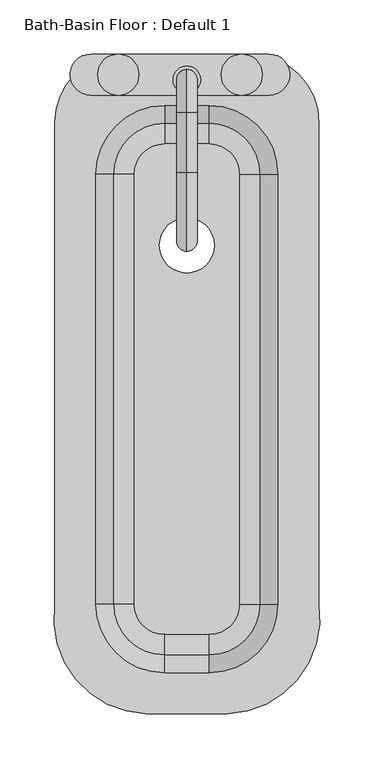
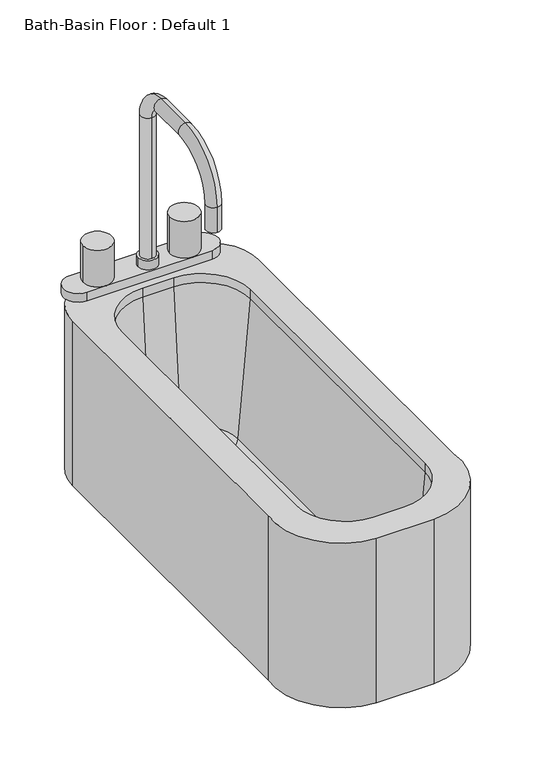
"""IFC4 building model written with IfcOpenShell, lengths in millimetres: flow terminal geometry, Bath-Basin Floor : Default 1."""

from ifc_helpers import new_model, si_unit, point, frame, origin, place, context, project, spatial, polyline, circle_curve, ellipse_curve, trimmed, source, transform, mapped, element, save
from ifc_brep_helpers import plane_surface, cylinder_surface, revolved_surface, advanced_brep


def bath_basin_floor_default_1_f7363a9e(model_context):
    return source(origin(), model_context, "Body", "AdvancedBrep", [
        advanced_brep(
        [(-22.1981923, -430.6108935, 698.5), (-106.5482593, -329.0108928, 698.5), (-106.5482593, 116.6454011, 698.5), (-43.0482593, 180.1454011, 698.5), (74.4267406, 180.1454011, 698.5), (137.9267406, 116.6454011, 698.5), (137.9267406, -329.0108935, 698.5), (53.5766735, -430.6108935, 698.5), (-9.7107594, 3.175, 698.5), (41.0892406, 3.175, 698.5), (64.3151588, 69.0204011, 708.025), (36.3267406, 97.0088193, 708.025), (-4.9482594, 97.0088193, 708.025), (-32.9366776, 69.0204011, 708.025), (-32.9366776, -329.0108935, 708.025), (-4.9482594, -356.9993117, 708.025), (36.3267406, -356.9993117, 708.025), (64.3151588, -329.0108935, 708.025), (-9.7107594, 3.175, 708.025), (41.0892406, 3.175, 708.025), (83.2926678, 69.0204011, 725.4146831), (36.3267406, 115.9863283, 725.4146831), (99.8267406, 69.0204011, 914.4), (36.3267406, 132.5204011, 914.4), (83.2926678, -329.0108935, 725.4146831), (99.8267406, -329.0108935, 914.4), (36.3267406, -375.9768207, 725.4146831), (36.3267406, -392.5108935, 914.4), (-4.9482594, -375.9768207, 725.4146831), (-4.9482594, -392.5108935, 914.4), (-51.9141866, -329.0108935, 725.4146831), (-68.4482594, -329.0108935, 914.4), (-51.9141866, 69.0204011, 725.4146831), (-68.4482594, 69.0204011, 914.4), (-4.9482594, 115.9863283, 725.4146831), (-4.9482594, 132.5204011, 914.4), (-22.1981923, -430.6108935, 927.1), (53.5766735, -430.6108935, 927.1), (137.9267406, -329.0108935, 927.1), (137.9267406, 116.6454011, 927.1), (74.4267406, 180.1454011, 927.1), (-43.0482593, 180.1454011, 927.1), (-106.5482593, 116.6454011, 927.1), (-106.5482593, -329.0108928, 927.1), (36.3267406, 132.5204011, 927.1), (99.8267406, 69.0204011, 927.1), (99.8267406, -329.0108935, 927.1), (36.3267406, -392.5108935, 927.1), (-4.9482594, -392.5108935, 927.1), (-68.4482594, -329.0108935, 927.1), (-68.4482594, 69.0204011, 927.1), (-4.9482594, 132.5204011, 927.1)],
        [
            (0, 1, circle_curve(frame((-18.3909746, -341.6356378, 698.5), z_axis=(0.0, 0.0, -1.0), x_axis=(1.0, 0.0, 0.0)), 89.0566732)),
            (1, 2),
            (2, 3, circle_curve(frame((-43.0482593, 116.6454011, 698.5), z_axis=(0.0, 0.0, -1.0), x_axis=(1.0, 0.0, 0.0)), 63.5)),
            (3, 4),
            (4, 5, circle_curve(frame((74.4267406, 116.6454011, 698.5), z_axis=(0.0, 0.0, -1.0), x_axis=(1.0, 0.0, 0.0)), 63.5)),
            (5, 6),
            (6, 7, circle_curve(frame((49.7694557, -341.6356378, 698.5), z_axis=(0.0, 0.0, -1.0), x_axis=(1.0, 0.0, 0.0)), 89.0566732)),
            (7, 0),
            (8, 9, circle_curve(frame((15.6892406, 3.175, 698.5), z_axis=(0.0, 0.0, 1.0), x_axis=(1.0, 0.0, 0.0)), 25.4)),
            (9, 8, circle_curve(frame((15.6892406, 3.175, 698.5), z_axis=(0.0, 0.0, 1.0), x_axis=(1.0, 0.0, 0.0)), 25.4)),
            (10, 11, circle_curve(frame((36.3267406, 69.0204011, 708.025), z_axis=(0.0, 0.0, 1.0), x_axis=(0.0, 1.0, 0.0)), 27.9884182)),
            (11, 12),
            (12, 13, circle_curve(frame((-4.9482594, 69.0204011, 708.025), z_axis=(0.0, 0.0, 1.0), x_axis=(-1.0, 0.0, 0.0)), 27.9884182)),
            (13, 14),
            (14, 15, circle_curve(frame((-4.9482594, -329.0108935, 708.025), z_axis=(0.0, 0.0, 1.0), x_axis=(0.0, -1.0, 0.0)), 27.9884182)),
            (15, 16),
            (16, 17, circle_curve(frame((36.3267406, -329.0108935, 708.025), z_axis=(0.0, 0.0, 1.0), x_axis=(1.0, 0.0, 0.0)), 27.9884182)),
            (17, 10),
            (18, 19, circle_curve(frame((15.6892406, 3.175, 708.025), z_axis=(0.0, 0.0, -1.0), x_axis=(1.0, 0.0, 0.0)), 25.4)),
            (19, 18, circle_curve(frame((15.6892406, 3.175, 708.025), z_axis=(0.0, 0.0, -1.0), x_axis=(1.0, 0.0, 0.0)), 25.4)),
            (10, 20, circle_curve(frame((64.3151588, 69.0204011, 727.075), z_axis=(0.0, -1.0, 0.0), x_axis=(1.0, 0.0, 0.0)), 19.05)),
            (20, 21, circle_curve(frame((36.3267406, 69.0204011, 725.4146831), z_axis=(0.0, 0.0, 1.0), x_axis=(0.0, 1.0, 0.0)), 46.9659272)),
            (21, 11, circle_curve(frame((36.3267406, 97.0088193, 727.075), z_axis=(-1.0, 0.0, 0.0), x_axis=(0.0, 1.0, 0.0)), 19.05)),
            (20, 22),
            (22, 23, circle_curve(frame((36.3267406, 69.0204011, 914.4), z_axis=(0.0, 0.0, 1.0), x_axis=(0.0, 1.0, 0.0)), 63.5)),
            (23, 21),
            (17, 24, circle_curve(frame((64.3151588, -329.0108935, 727.075), z_axis=(0.0, -1.0, 0.0), x_axis=(1.0, 0.0, 0.0)), 19.05)),
            (24, 20),
            (24, 25),
            (25, 22),
            (16, 26, circle_curve(frame((36.3267406, -356.9993117, 727.075), z_axis=(-1.0, 0.0, 0.0), x_axis=(0.0, -1.0, 0.0)), 19.05)),
            (26, 24, circle_curve(frame((36.3267406, -329.0108935, 725.4146831), z_axis=(0.0, 0.0, 1.0), x_axis=(1.0, 0.0, 0.0)), 46.9659272)),
            (26, 27),
            (27, 25, circle_curve(frame((36.3267406, -329.0108935, 914.4), z_axis=(0.0, 0.0, 1.0), x_axis=(1.0, 0.0, 0.0)), 63.5)),
            (15, 28, circle_curve(frame((-4.9482594, -356.9993117, 727.075), z_axis=(-1.0, 0.0, 0.0), x_axis=(0.0, -1.0, 0.0)), 19.05)),
            (28, 26),
            (28, 29),
            (29, 27),
            (14, 30, circle_curve(frame((-32.9366776, -329.0108935, 727.075), z_axis=(0.0, 1.0, 0.0), x_axis=(-1.0, 0.0, 0.0)), 19.05)),
            (30, 28, circle_curve(frame((-4.9482594, -329.0108935, 725.4146831), z_axis=(0.0, 0.0, 1.0), x_axis=(0.0, -1.0, 0.0)), 46.9659272)),
            (30, 31),
            (31, 29, circle_curve(frame((-4.9482594, -329.0108935, 914.4), z_axis=(0.0, 0.0, 1.0), x_axis=(0.0, -1.0, 0.0)), 63.5)),
            (13, 32, circle_curve(frame((-32.9366776, 69.0204011, 727.075), z_axis=(0.0, 1.0, 0.0), x_axis=(-1.0, 0.0, 0.0)), 19.05)),
            (32, 30),
            (32, 33),
            (33, 31),
            (12, 34, circle_curve(frame((-4.9482594, 97.0088193, 727.075), z_axis=(1.0, 0.0, 0.0), x_axis=(0.0, 1.0, 0.0)), 19.05)),
            (34, 32, circle_curve(frame((-4.9482594, 69.0204011, 725.4146831), z_axis=(0.0, 0.0, 1.0), x_axis=(-1.0, 0.0, 0.0)), 46.9659272)),
            (34, 35),
            (35, 33, circle_curve(frame((-4.9482594, 69.0204011, 914.4), z_axis=(0.0, 0.0, 1.0), x_axis=(-1.0, 0.0, 0.0)), 63.5)),
            (21, 34),
            (23, 35),
            (18, 8),
            (9, 19),
            (36, 37),
            (37, 38, circle_curve(frame((49.7694557, -341.6356378, 927.1), z_axis=(0.0, 0.0, 1.0), x_axis=(1.0, 0.0, 0.0)), 89.0566732)),
            (38, 39),
            (39, 40, circle_curve(frame((74.4267406, 116.6454011, 927.1), z_axis=(0.0, 0.0, 1.0), x_axis=(1.0, 0.0, 0.0)), 63.5)),
            (40, 41),
            (41, 42, circle_curve(frame((-43.0482593, 116.6454011, 927.1), z_axis=(0.0, 0.0, 1.0), x_axis=(1.0, 0.0, 0.0)), 63.5)),
            (42, 43),
            (43, 36, circle_curve(frame((-18.3909746, -341.6356378, 927.1), z_axis=(0.0, 0.0, 1.0), x_axis=(1.0, 0.0, 0.0)), 89.0566732)),
            (44, 45, circle_curve(frame((36.3267406, 69.0204011, 927.1), z_axis=(0.0, 0.0, -1.0), x_axis=(1.0, 0.0, 0.0)), 63.5)),
            (45, 46),
            (46, 47, circle_curve(frame((36.3267406, -329.0108935, 927.1), z_axis=(0.0, 0.0, -1.0), x_axis=(1.0, 0.0, 0.0)), 63.5)),
            (47, 48),
            (48, 49, circle_curve(frame((-4.9482594, -329.0108935, 927.1), z_axis=(0.0, 0.0, -1.0), x_axis=(1.0, 0.0, 0.0)), 63.5)),
            (49, 50),
            (50, 51, circle_curve(frame((-4.9482594, 69.0204011, 927.1), z_axis=(0.0, 0.0, -1.0), x_axis=(1.0, 0.0, 0.0)), 63.5)),
            (51, 44),
            (36, 0),
            (7, 37),
            (6, 38),
            (5, 39),
            (4, 40),
            (3, 41),
            (2, 42),
            (1, 43),
            (44, 23),
            (22, 45),
            (25, 46),
            (27, 47),
            (29, 48),
            (31, 49),
            (33, 50),
            (35, 51),
        ],
        [
            plane_surface(frame((36.3267406, 69.0204011, 698.5), z_axis=(0.0, 0.0, -1.0), x_axis=(0.0, 1.0, 0.0))),
            plane_surface(frame((36.3267406, 69.0204011, 708.025), z_axis=(0.0, 0.0, 1.0), x_axis=(0.0, 1.0, 0.0))),
            revolved_surface(trimmed(ellipse_curve(frame((36.3267406, 97.0088193, 727.075), z_axis=(1.0, 0.0, 0.0), x_axis=(0.0, 1.0, 0.0)), 19.05, 19.05), [point((36.3267406, 97.0088193, 708.025))], [point((36.3267406, 115.9863283, 725.4146831))], True, "CARTESIAN"), (36.3267406, 69.0204011, 0.0), (0.0, 0.0, -1.0)),
            revolved_surface(polyline([(36.3267406, 115.9863283, 725.4146831), (36.3267406, 132.5204011, 914.4)]), (36.3267406, 69.0204011, 0.0), (0.0, 0.0, -1.0)),
            revolved_surface(polyline([(83.3651588, -329.0108935, 727.075), (83.3651588, 69.0204011, 727.075)]), (64.3151588, 69.0204011, 727.075), (0.0, -1.0, 0.0)),
            plane_surface(frame((83.2926678, 69.0204011, 725.4146831), z_axis=(-0.9961946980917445, 0.0, 0.08715574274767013), x_axis=(0.0, -1.0, 0.0))),
            revolved_surface(trimmed(ellipse_curve(frame((64.3151588, -329.0108935, 727.075), z_axis=(0.0, -1.0, 0.0), x_axis=(1.0, 0.0, 0.0)), 19.05, 19.05), [point((64.3151588, -329.0108935, 708.025))], [point((83.2926678, -329.0108935, 725.4146831))], True, "CARTESIAN"), (36.3267406, -329.0108935, 0.0), (0.0, 0.0, -1.0)),
            revolved_surface(polyline([(83.2926678, -329.0108935, 725.4146831), (99.8267406, -329.0108935, 914.4)]), (36.3267406, -329.0108935, 0.0), (0.0, 0.0, -1.0)),
            revolved_surface(polyline([(-4.948259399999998, -376.04931170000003, 727.075), (36.3267406, -376.04931170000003, 727.075)]), (36.3267406, -356.9993117, 727.075), (-1.0, 0.0, 0.0)),
            plane_surface(frame((36.3267406, -375.9768207, 725.4146831), z_axis=(0.0, 0.9961946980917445, 0.08715574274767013), x_axis=(-1.0, 0.0, 0.0))),
            revolved_surface(trimmed(ellipse_curve(frame((-4.9482594, -356.9993117, 727.075), z_axis=(-1.0, 0.0, 0.0), x_axis=(0.0, -1.0, 0.0)), 19.05, 19.05), [point((-4.9482594, -356.9993117, 708.025))], [point((-4.9482594, -375.9768207, 725.4146831))], True, "CARTESIAN"), (-4.9482594, -329.0108935, 0.0), (0.0, 0.0, -1.0)),
            revolved_surface(polyline([(-4.9482594, -375.9768207, 725.4146831), (-4.9482594, -392.5108935, 914.4)]), (-4.9482594, -329.0108935, 0.0), (0.0, 0.0, -1.0)),
            revolved_surface(polyline([(-51.98667760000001, 69.02040110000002, 727.075), (-51.98667760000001, -329.0108935, 727.075)]), (-32.9366776, -329.0108935, 727.075), (0.0, 1.0, 0.0)),
            plane_surface(frame((-51.9141866, -329.0108935, 725.4146831), z_axis=(0.9961946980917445, 0.0, 0.08715574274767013), x_axis=(0.0, 1.0, 0.0))),
            revolved_surface(trimmed(ellipse_curve(frame((-32.9366776, 69.0204011, 727.075), z_axis=(0.0, 1.0, 0.0), x_axis=(-1.0, 0.0, 0.0)), 19.05, 19.05), [point((-32.9366776, 69.0204011, 708.025))], [point((-51.9141866, 69.0204011, 725.4146831))], True, "CARTESIAN"), (-4.9482594, 69.0204011, 0.0), (0.0, 0.0, -1.0)),
            revolved_surface(polyline([(-51.9141866, 69.0204011, 725.4146831), (-68.4482594, 69.0204011, 914.4)]), (-4.9482594, 69.0204011, 0.0), (0.0, 0.0, -1.0)),
            revolved_surface(polyline([(36.3267406, 116.0588193, 727.075), (-4.9482594, 116.0588193, 727.075)]), (-4.9482594, 97.0088193, 727.075), (1.0, 0.0, 0.0)),
            plane_surface(frame((-4.9482594, 115.9863283, 725.4146831), z_axis=(0.0, -0.9961946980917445, 0.08715574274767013), x_axis=(1.0, 0.0, 0.0))),
            revolved_surface(polyline([(41.0892406, 3.175, 698.5), (41.0892406, 3.175, 708.025)]), (15.6892406, 3.175, 0.0), (0.0, 0.0, -1.0)),
            plane_surface(frame((53.5766735, -430.6108935, 927.1), z_axis=(0.0, 0.0, 1.0), x_axis=(1.0, 0.0, 0.0))),
            plane_surface(frame((-22.1981923, -430.6108935, 927.1), z_axis=(0.0, -1.0, 0.0), x_axis=(0.0, 0.0, -1.0))),
            cylinder_surface(frame((49.7694557, -341.6356378, 698.5), z_axis=(0.0, 0.0, 1.0), x_axis=(1.0, 0.0, 0.0)), 89.0566732),
            plane_surface(frame((137.9267406, -329.0108935, 927.1), z_axis=(1.0, 0.0, 0.0), x_axis=(0.0, 0.0, -1.0))),
            cylinder_surface(frame((74.4267406, 116.6454011, 698.5), z_axis=(0.0, 0.0, 1.0), x_axis=(1.0, 0.0, 0.0)), 63.5),
            plane_surface(frame((74.4267406, 180.1454011, 927.1), z_axis=(0.0, 1.0, 0.0), x_axis=(0.0, 0.0, -1.0))),
            cylinder_surface(frame((-43.0482593, 116.6454011, 698.5), z_axis=(0.0, 0.0, 1.0), x_axis=(1.0, 0.0, 0.0)), 63.5),
            plane_surface(frame((-106.5482593, 116.6454011, 927.1), z_axis=(-1.0, 0.0, 0.0), x_axis=(0.0, 0.0, -1.0))),
            cylinder_surface(frame((-18.3909746, -341.6356378, 698.5), z_axis=(0.0, 0.0, 1.0), x_axis=(1.0, 0.0, 0.0)), 89.0566732),
            revolved_surface(polyline([(99.8267406, 69.0204011, 914.4), (99.8267406, 69.0204011, 927.1)]), (36.3267406, 69.0204011, 0.0), (0.0, 0.0, -1.0)),
            plane_surface(frame((99.8267406, 69.0204011, 927.1), z_axis=(-1.0, 0.0, 0.0), x_axis=(0.0, 0.0, -1.0))),
            revolved_surface(polyline([(99.8267406, -329.0108935, 914.4), (99.8267406, -329.0108935, 927.1)]), (36.3267406, -329.0108935, 0.0), (0.0, 0.0, -1.0)),
            plane_surface(frame((36.3267406, -392.5108935, 927.1), z_axis=(0.0, 1.0, 0.0), x_axis=(0.0, 0.0, -1.0))),
            revolved_surface(polyline([(58.5517406, -329.0108935, 914.4), (58.5517406, -329.0108935, 927.1)]), (-4.9482594, -329.0108935, 0.0), (0.0, 0.0, -1.0)),
            plane_surface(frame((-68.4482594, -329.0108935, 927.1), z_axis=(1.0, 0.0, 0.0), x_axis=(0.0, 0.0, -1.0))),
            revolved_surface(polyline([(58.5517406, 69.0204011, 914.4), (58.5517406, 69.0204011, 927.1)]), (-4.9482594, 69.0204011, 0.0), (0.0, 0.0, -1.0)),
            plane_surface(frame((-4.9482594, 132.5204011, 927.1), z_axis=(0.0, -1.0, 0.0), x_axis=(0.0, 0.0, -1.0))),
        ],
        [
            (0, [[1, 2, 3, 4, 5, 6, 7, 8], [9, 10]]),
            (1, [[11, 12, 13, 14, 15, 16, 17, 18], [19, 20]]),
            (2, [[-11, 21, 22, 23]]),
            (3, [[-22, 24, 25, 26]]),
            (4, [[-21, -18, 27, 28]]),
            (5, [[-24, -28, 29, 30]]),
            (6, [[-27, -17, 31, 32]]),
            (7, [[-29, -32, 33, 34]]),
            (8, [[-31, -16, 35, 36]]),
            (9, [[-33, -36, 37, 38]]),
            (10, [[-35, -15, 39, 40]]),
            (11, [[-37, -40, 41, 42]]),
            (12, [[-39, -14, 43, 44]]),
            (13, [[-41, -44, 45, 46]]),
            (14, [[-43, -13, 47, 48]]),
            (15, [[-45, -48, 49, 50]]),
            (16, [[-23, 51, -47, -12]]),
            (17, [[-26, 52, -49, -51]]),
            (18, [[-19, 53, -10, 54]]),
            (18, [[-20, -54, -9, -53]]),
            (19, [[55, 56, 57, 58, 59, 60, 61, 62], [63, 64, 65, 66, 67, 68, 69, 70]]),
            (20, [[-55, 71, -8, 72]]),
            (21, [[-56, -72, -7, 73]]),
            (22, [[-57, -73, -6, 74]]),
            (23, [[-58, -74, -5, 75]]),
            (24, [[-59, -75, -4, 76]]),
            (25, [[-60, -76, -3, 77]]),
            (26, [[-61, -77, -2, 78]]),
            (27, [[-62, -78, -1, -71]]),
            (28, [[-63, 79, -25, 80]]),
            (29, [[-64, -80, -30, 81]]),
            (30, [[-65, -81, -34, 82]]),
            (31, [[-66, -82, -38, 83]]),
            (32, [[-67, -83, -42, 84]]),
            (33, [[-68, -84, -46, 85]]),
            (34, [[-69, -85, -50, 86]]),
            (35, [[-70, -86, -52, -79]]),
        ],
    ),
        advanced_brep(
        [(91.8892406, 180.1454011, 927.1), (91.8892406, 142.0454011, 927.1), (66.4892406, 142.0454011, 927.1), (-47.8107594, 142.0454011, 927.1), (-73.2107594, 142.0454011, 927.1), (-73.2107594, 180.1454011, 927.1), (-47.8107594, 180.1454011, 927.1), (66.4892406, 180.1454011, 927.1), (15.6892406, 165.8579011, 1147.7625), (15.6892406, 146.8079011, 1147.7625), (15.6892406, 146.8079011, 952.5), (15.6892406, 165.8579011, 952.5), (15.6892406, 126.1704011, 1187.45), (15.6892406, 126.1704011, 1168.4), (15.6892406, 70.6079011, 1187.45), (15.6892406, 70.6079011, 1168.4), (15.6892406, -2.4170989, 1114.425), (15.6892406, 16.6329011, 1114.425), (15.6892406, -2.4170989, 1079.5), (15.6892406, 16.6329011, 1079.5), (2.9892406, 156.3329011, 952.5), (28.3892406, 156.3329011, 952.5), (2.9892406, 156.3329011, 939.6), (28.3892406, 156.3329011, 939.6), (-73.2107594, 180.1454011, 939.6), (-73.2107594, 142.0454011, 939.6), (-47.8107594, 142.0454011, 939.6), (-66.8607594, 161.0954011, 939.6), (-47.8107594, 180.1454011, 939.6), (91.8892406, 142.0454011, 939.6), (91.8892406, 180.1454011, 939.6), (66.4892406, 180.1454011, 939.6), (85.5392406, 161.0954011, 939.6), (66.4892406, 142.0454011, 939.6), (-28.7607594, 161.0954011, 939.6), (47.4392406, 161.0954011, 939.6), (-66.8607594, 161.0954011, 990.6), (-28.7607594, 161.0954011, 990.6), (47.4392406, 161.0954011, 990.6), (85.5392406, 161.0954011, 990.6)],
        [
            (0, 1, circle_curve(frame((91.8892406, 161.0954011, 927.1), z_axis=(0.0, 0.0, -1.0), x_axis=(1.0, 0.0, 0.0)), 19.05)),
            (1, 2),
            (2, 3),
            (3, 4),
            (4, 5, circle_curve(frame((-73.2107594, 161.0954011, 927.1), z_axis=(0.0, 0.0, -1.0), x_axis=(1.0, 0.0, 0.0)), 19.05)),
            (5, 6),
            (6, 7),
            (7, 0),
            (8, 9, circle_curve(frame((15.6892406, 156.3329011, 1147.7625), z_axis=(0.0, 0.0, -1.0), x_axis=(0.0, -1.0, 0.0)), 9.525)),
            (9, 10),
            (10, 11, circle_curve(frame((15.6892406, 156.3329011, 952.5), z_axis=(0.0, 0.0, 1.0), x_axis=(0.0, -1.0, 0.0)), 9.525)),
            (11, 8),
            (9, 8, circle_curve(frame((15.6892406, 156.3329011, 1147.7625), z_axis=(0.0, 0.0, -1.0), x_axis=(0.0, -1.0, 0.0)), 9.525)),
            (11, 10, circle_curve(frame((15.6892406, 156.3329011, 952.5), z_axis=(0.0, 0.0, 1.0), x_axis=(0.0, -1.0, 0.0)), 9.525)),
            (8, 12, circle_curve(frame((15.6892406, 126.1704011, 1147.7625), z_axis=(1.0, 0.0, 0.0), x_axis=(0.0, 1.0, 0.0)), 39.6875)),
            (12, 13, circle_curve(frame((15.6892406, 126.1704011, 1177.925), z_axis=(0.0, 1.0, 0.0), x_axis=(0.0, 0.0, -1.0)), 9.525)),
            (13, 9, circle_curve(frame((15.6892406, 126.1704011, 1147.7625), z_axis=(-1.0, 0.0, 0.0), x_axis=(0.0, 1.0, 0.0)), 20.6375)),
            (13, 12, circle_curve(frame((15.6892406, 126.1704011, 1177.925), z_axis=(0.0, 1.0, 0.0), x_axis=(0.0, 0.0, -1.0)), 9.525)),
            (12, 14),
            (14, 15, circle_curve(frame((15.6892406, 70.6079011, 1177.925), z_axis=(0.0, 1.0, 0.0), x_axis=(0.0, 0.0, -1.0)), 9.525)),
            (15, 13),
            (15, 14, circle_curve(frame((15.6892406, 70.6079011, 1177.925), z_axis=(0.0, 1.0, 0.0), x_axis=(0.0, 0.0, -1.0)), 9.525)),
            (14, 16, circle_curve(frame((15.6892406, 70.6079011, 1114.425), z_axis=(1.0, 0.0, 0.0), x_axis=(0.0, 0.0, 1.0)), 73.025)),
            (16, 17, circle_curve(frame((15.6892406, 7.1079011, 1114.425), z_axis=(0.0, 0.0, 1.0), x_axis=(0.0, 1.0, 0.0)), 9.525)),
            (17, 15, circle_curve(frame((15.6892406, 70.6079011, 1114.425), z_axis=(-1.0, 0.0, 0.0), x_axis=(0.0, 0.0, 1.0)), 53.975)),
            (17, 16, circle_curve(frame((15.6892406, 7.1079011, 1114.425), z_axis=(0.0, 0.0, 1.0), x_axis=(0.0, 1.0, 0.0)), 9.525)),
            (18, 19, circle_curve(frame((15.6892406, 7.1079011, 1079.5), z_axis=(0.0, 0.0, -1.0), x_axis=(0.0, 1.0, 0.0)), 9.525)),
            (19, 18, circle_curve(frame((15.6892406, 7.1079011, 1079.5), z_axis=(0.0, 0.0, -1.0), x_axis=(0.0, 1.0, 0.0)), 9.525)),
            (16, 18),
            (19, 17),
            (20, 21, circle_curve(frame((15.6892406, 156.3329011, 952.5), z_axis=(0.0, 0.0, 1.0), x_axis=(1.0, 0.0, 0.0)), 12.7)),
            (21, 20, circle_curve(frame((15.6892406, 156.3329011, 952.5), z_axis=(0.0, 0.0, 1.0), x_axis=(1.0, 0.0, 0.0)), 12.7)),
            (20, 22),
            (22, 23, circle_curve(frame((15.6892406, 156.3329011, 939.6), z_axis=(0.0, 0.0, 1.0), x_axis=(1.0, 0.0, 0.0)), 12.7)),
            (23, 21),
            (23, 22, circle_curve(frame((15.6892406, 156.3329011, 939.6), z_axis=(0.0, 0.0, 1.0), x_axis=(1.0, 0.0, 0.0)), 12.7)),
            (24, 25, circle_curve(frame((-73.2107594, 161.0954011, 939.6), z_axis=(0.0, 0.0, 1.0), x_axis=(1.0, 0.0, 0.0)), 19.05)),
            (25, 26),
            (26, 27, circle_curve(frame((-47.8107594, 161.0954011, 939.6), z_axis=(0.0, 0.0, -1.0), x_axis=(1.0, 0.0, 0.0)), 19.05)),
            (27, 28, circle_curve(frame((-47.8107594, 161.0954011, 939.6), z_axis=(0.0, 0.0, -1.0), x_axis=(1.0, 0.0, 0.0)), 19.05)),
            (28, 24),
            (29, 30, circle_curve(frame((91.8892406, 161.0954011, 939.6), z_axis=(0.0, 0.0, 1.0), x_axis=(1.0, 0.0, 0.0)), 19.05)),
            (30, 31),
            (31, 32, circle_curve(frame((66.4892406, 161.0954011, 939.6), z_axis=(0.0, 0.0, -1.0), x_axis=(1.0, 0.0, 0.0)), 19.05)),
            (32, 33, circle_curve(frame((66.4892406, 161.0954011, 939.6), z_axis=(0.0, 0.0, -1.0), x_axis=(1.0, 0.0, 0.0)), 19.05)),
            (33, 29),
            (31, 28),
            (28, 34, circle_curve(frame((-47.8107594, 161.0954011, 939.6), z_axis=(0.0, 0.0, -1.0), x_axis=(1.0, 0.0, 0.0)), 19.05)),
            (34, 26, circle_curve(frame((-47.8107594, 161.0954011, 939.6), z_axis=(0.0, 0.0, -1.0), x_axis=(1.0, 0.0, 0.0)), 19.05)),
            (26, 33),
            (33, 35, circle_curve(frame((66.4892406, 161.0954011, 939.6), z_axis=(0.0, 0.0, -1.0), x_axis=(1.0, 0.0, 0.0)), 19.05)),
            (35, 31, circle_curve(frame((66.4892406, 161.0954011, 939.6), z_axis=(0.0, 0.0, -1.0), x_axis=(1.0, 0.0, 0.0)), 19.05)),
            (30, 0),
            (5, 24),
            (4, 25),
            (1, 29),
            (36, 37, circle_curve(frame((-47.8107594, 161.0954011, 990.6), z_axis=(0.0, 0.0, 1.0), x_axis=(1.0, 0.0, 0.0)), 19.05)),
            (37, 36, circle_curve(frame((-47.8107594, 161.0954011, 990.6), z_axis=(0.0, 0.0, 1.0), x_axis=(1.0, 0.0, 0.0)), 19.05)),
            (38, 39, circle_curve(frame((66.4892406, 161.0954011, 990.6), z_axis=(0.0, 0.0, 1.0), x_axis=(1.0, 0.0, 0.0)), 19.05)),
            (39, 38, circle_curve(frame((66.4892406, 161.0954011, 990.6), z_axis=(0.0, 0.0, 1.0), x_axis=(1.0, 0.0, 0.0)), 19.05)),
            (36, 27),
            (34, 37),
            (38, 35),
            (32, 39),
        ],
        [
            plane_surface(frame((15.6892406, 146.8079011, 927.1), z_axis=(0.0, 0.0, -1.0), x_axis=(1.0, 0.0, 0.0))),
            cylinder_surface(frame((15.6892406, 156.3329011, 927.1), z_axis=(0.0, 0.0, -1.0), x_axis=(0.0, -1.0, 0.0)), 9.525),
            revolved_surface(trimmed(ellipse_curve(frame((15.6892406, 156.3329011, 1147.7625), z_axis=(0.0, 0.0, -1.0), x_axis=(0.0, -1.0, 0.0)), 9.525, 9.525), [point((15.6892406, 165.8579011, 1147.7625))], [point((15.6892406, 146.8079011, 1147.7625))], True, "CARTESIAN"), (15.6892406, 126.1704011, 1147.7625), (1.0, 0.0, 0.0)),
            revolved_surface(trimmed(ellipse_curve(frame((15.6892406, 156.3329011, 1147.7625), z_axis=(0.0, 0.0, -1.0), x_axis=(0.0, -1.0, 0.0)), 9.525, 9.525), [point((15.6892406, 146.8079011, 1147.7625))], [point((15.6892406, 165.8579011, 1147.7625))], True, "CARTESIAN"), (15.6892406, 126.1704011, 1147.7625), (1.0, 0.0, 0.0)),
            cylinder_surface(frame((15.6892406, 126.1704011, 1177.925), z_axis=(0.0, 1.0, 0.0), x_axis=(0.0, 0.0, -1.0)), 9.525),
            revolved_surface(trimmed(ellipse_curve(frame((15.6892406, 70.6079011, 1177.925), z_axis=(0.0, 1.0, 0.0), x_axis=(0.0, 0.0, -1.0)), 9.525, 9.525), [point((15.6892406, 70.6079011, 1187.45))], [point((15.6892406, 70.6079011, 1168.4))], True, "CARTESIAN"), (15.6892406, 70.6079011, 1114.425), (1.0, 0.0, 0.0)),
            revolved_surface(trimmed(ellipse_curve(frame((15.6892406, 70.6079011, 1177.925), z_axis=(0.0, 1.0, 0.0), x_axis=(0.0, 0.0, -1.0)), 9.525, 9.525), [point((15.6892406, 70.6079011, 1168.4))], [point((15.6892406, 70.6079011, 1187.45))], True, "CARTESIAN"), (15.6892406, 70.6079011, 1114.425), (1.0, 0.0, 0.0)),
            plane_surface(frame((15.6892406, -2.4170989, 1079.5), z_axis=(0.0, 0.0, -1.0), x_axis=(-1.0, 0.0, 0.0))),
            cylinder_surface(frame((15.6892406, 7.1079011, 1114.425), z_axis=(0.0, 0.0, 1.0), x_axis=(0.0, 1.0, 0.0)), 9.525),
            plane_surface(frame((28.3892406, 156.3329011, 952.5), z_axis=(0.0, 0.0, 1.0), x_axis=(0.0, 1.0, 0.0))),
            cylinder_surface(frame((15.6892406, 156.3329011, 927.1), z_axis=(0.0, 0.0, 1.0), x_axis=(1.0, 0.0, 0.0)), 12.7),
            plane_surface(frame((-73.2107594, 180.1454011, 939.6), z_axis=(0.0, 0.0, 1.0), x_axis=(-1.0, 0.0, 0.0))),
            plane_surface(frame((91.8892406, 180.1454011, 939.6), z_axis=(0.0, 1.0, 0.0), x_axis=(0.0, 0.0, -1.0))),
            cylinder_surface(frame((-73.2107594, 161.0954011, 927.1), z_axis=(0.0, 0.0, 1.0), x_axis=(1.0, 0.0, 0.0)), 19.05),
            plane_surface(frame((-73.2107594, 142.0454011, 939.6), z_axis=(0.0, -1.0, 0.0), x_axis=(0.0, 0.0, -1.0))),
            cylinder_surface(frame((91.8892406, 161.0954011, 927.1), z_axis=(0.0, 0.0, 1.0), x_axis=(1.0, 0.0, 0.0)), 19.05),
            plane_surface(frame((-28.7607594, 161.0954011, 990.6), z_axis=(0.0, 0.0, 1.0), x_axis=(0.0, 1.0, 0.0))),
            cylinder_surface(frame((-47.8107594, 161.0954011, 927.1), z_axis=(0.0, 0.0, 1.0), x_axis=(1.0, 0.0, 0.0)), 19.05),
            cylinder_surface(frame((66.4892406, 161.0954011, 0.0), z_axis=(0.0, 0.0, 1.0), x_axis=(1.0, 0.0, 0.0)), 19.05),
        ],
        [
            (0, [[1, 2, 3, 4, 5, 6, 7, 8]]),
            (1, [[9, 10, 11, 12]]),
            (1, [[13, -12, 14, -10]]),
            (2, [[-9, 15, 16, 17]]),
            (3, [[-13, -17, 18, -15]]),
            (4, [[-16, 19, 20, 21]]),
            (4, [[-18, -21, 22, -19]]),
            (5, [[-20, 23, 24, 25]]),
            (6, [[-22, -25, 26, -23]]),
            (7, [[27, 28]]),
            (8, [[-24, 29, -28, 30]]),
            (8, [[-26, -30, -27, -29]]),
            (9, [[31, 32], [-11, -14]]),
            (10, [[-31, 33, 34, 35]]),
            (10, [[-32, -35, 36, -33]]),
            (11, [[37, 38, 39, 40, 41]]),
            (11, [[42, 43, 44, 45, 46]]),
            (11, [[47, 48, 49, 50, 51, 52], [-34, -36]]),
            (12, [[53, -8, -7, -6, 54, -41, -47, -43]]),
            (13, [[-37, -54, -5, 55]]),
            (14, [[-55, -4, -3, -2, 56, -46, -50, -38]]),
            (15, [[-42, -56, -1, -53]]),
            (16, [[57, 58]]),
            (16, [[59, 60]]),
            (17, [[-57, 61, -39, -49, 62]]),
            (17, [[-58, -62, -48, -40, -61]]),
            (18, [[-59, 63, -51, -45, 64]]),
            (18, [[-60, -64, -44, -52, -63]]),
        ],
    ),
    ])


if __name__ == "__main__":
    model = new_model("IFC4")
    model_context = context("Model", 3, world=origin())
    ifc_project = project(units=[si_unit("LENGTHUNIT", "METRE", prefix="MILLI")], contexts=[model_context])
    site = spatial("IfcSite", under=ifc_project)
    building = spatial("IfcBuilding", under=site)
    placement = place(None, origin())
    bath_basin_floor_default_1_shape = bath_basin_floor_default_1_f7363a9e(model_context)
    element("IfcFlowTerminal", 1, ObjectType="Bath-Basin Floor : Default 1", at=placement, inside=building, context=model_context, shape_type="MappedRepresentation", body=[
        mapped(bath_basin_floor_default_1_shape, transform((0.0, 0.0, 0.0), x_axis=(1.0, 0.0, 0.0), y_axis=(0.0, 1.0, 0.0), z_axis=(0.0, 0.0, 1.0))),
    ])
    save(model, "model.ifc")
